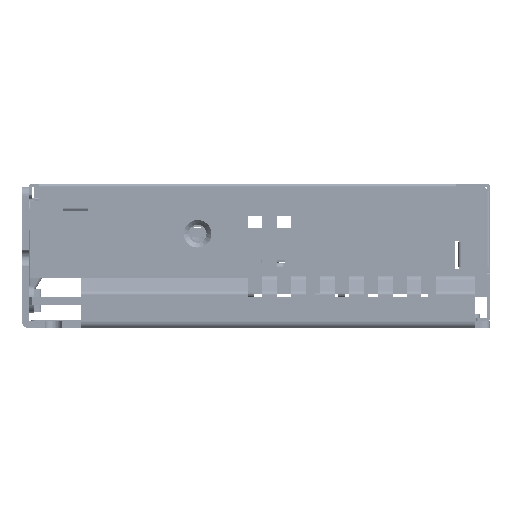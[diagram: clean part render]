
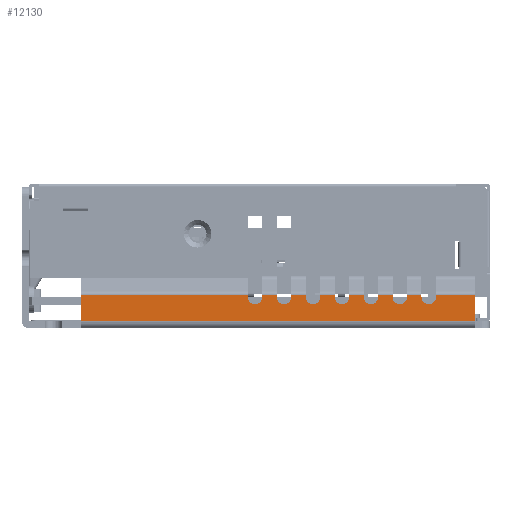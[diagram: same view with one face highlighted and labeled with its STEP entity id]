
A CAD part, left-side view. The second image highlights one B-rep face of the part: STEP entity #12130.
In plain terms, the highlighted planar face has unit normal (-1, 0, 0).
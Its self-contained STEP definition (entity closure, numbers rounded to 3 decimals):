
#3568=DIRECTION('',(0.,1.,0.));
#3569=VECTOR('',#3568,34.55);
#3570=CARTESIAN_POINT('',(-79.5,1.7,6.865));
#3571=LINE('',#3570,#3569);
#3572=DIRECTION('',(0.,0.,-1.));
#3573=VECTOR('',#3572,0.365);
#3574=CARTESIAN_POINT('',(-79.5,1.7,6.865));
#3575=LINE('',#3574,#3573);
#3576=CARTESIAN_POINT('',(-79.5,0.2,6.5));
#3577=DIRECTION('',(-1.,0.,0.));
#3578=DIRECTION('',(0.,1.,0.));
#3579=AXIS2_PLACEMENT_3D('',#3576,#3577,#3578);
#3581=DIRECTION('',(0.,0.,-1.));
#3582=VECTOR('',#3581,0.365);
#3583=CARTESIAN_POINT('',(-79.5,-1.3,6.865));
#3584=LINE('',#3583,#3582);
#3585=DIRECTION('',(0.,1.,0.));
#3586=VECTOR('',#3585,3.);
#3587=CARTESIAN_POINT('',(-79.5,-4.3,6.865));
#3588=LINE('',#3587,#3586);
#3589=DIRECTION('',(0.,0.,-1.));
#3590=VECTOR('',#3589,0.365);
#3591=CARTESIAN_POINT('',(-79.5,-4.3,6.865));
#3592=LINE('',#3591,#3590);
#3593=CARTESIAN_POINT('',(-79.5,-5.8,6.5));
#3594=DIRECTION('',(-1.,0.,0.));
#3595=DIRECTION('',(0.,1.,0.));
#3596=AXIS2_PLACEMENT_3D('',#3593,#3594,#3595);
#3598=DIRECTION('',(0.,0.,-1.));
#3599=VECTOR('',#3598,0.365);
#3600=CARTESIAN_POINT('',(-79.5,-7.3,6.865));
#3601=LINE('',#3600,#3599);
#3602=DIRECTION('',(0.,1.,0.));
#3603=VECTOR('',#3602,3.);
#3604=CARTESIAN_POINT('',(-79.5,-10.3,6.865));
#3605=LINE('',#3604,#3603);
#3606=DIRECTION('',(0.,0.,-1.));
#3607=VECTOR('',#3606,0.365);
#3608=CARTESIAN_POINT('',(-79.5,-10.3,6.865));
#3609=LINE('',#3608,#3607);
#3610=CARTESIAN_POINT('',(-79.5,-11.8,6.5));
#3611=DIRECTION('',(-1.,0.,0.));
#3612=DIRECTION('',(0.,1.,0.));
#3613=AXIS2_PLACEMENT_3D('',#3610,#3611,#3612);
#3615=DIRECTION('',(0.,0.,-1.));
#3616=VECTOR('',#3615,0.365);
#3617=CARTESIAN_POINT('',(-79.5,-13.3,6.865));
#3618=LINE('',#3617,#3616);
#3619=DIRECTION('',(0.,1.,0.));
#3620=VECTOR('',#3619,3.);
#3621=CARTESIAN_POINT('',(-79.5,-16.3,6.865));
#3622=LINE('',#3621,#3620);
#3623=DIRECTION('',(0.,0.,-1.));
#3624=VECTOR('',#3623,0.365);
#3625=CARTESIAN_POINT('',(-79.5,-16.3,6.865));
#3626=LINE('',#3625,#3624);
#3627=CARTESIAN_POINT('',(-79.5,-17.8,6.5));
#3628=DIRECTION('',(-1.,0.,0.));
#3629=DIRECTION('',(0.,1.,0.));
#3630=AXIS2_PLACEMENT_3D('',#3627,#3628,#3629);
#3632=DIRECTION('',(0.,0.,-1.));
#3633=VECTOR('',#3632,0.365);
#3634=CARTESIAN_POINT('',(-79.5,-19.3,6.865));
#3635=LINE('',#3634,#3633);
#3636=DIRECTION('',(0.,1.,0.));
#3637=VECTOR('',#3636,3.);
#3638=CARTESIAN_POINT('',(-79.5,-22.3,6.865));
#3639=LINE('',#3638,#3637);
#3640=DIRECTION('',(0.,0.,-1.));
#3641=VECTOR('',#3640,0.365);
#3642=CARTESIAN_POINT('',(-79.5,-22.3,6.865));
#3643=LINE('',#3642,#3641);
#3644=CARTESIAN_POINT('',(-79.5,-23.8,6.5));
#3645=DIRECTION('',(-1.,0.,0.));
#3646=DIRECTION('',(0.,1.,0.));
#3647=AXIS2_PLACEMENT_3D('',#3644,#3645,#3646);
#3649=DIRECTION('',(0.,0.,-1.));
#3650=VECTOR('',#3649,0.365);
#3651=CARTESIAN_POINT('',(-79.5,-25.3,6.865));
#3652=LINE('',#3651,#3650);
#3653=DIRECTION('',(0.,1.,0.));
#3654=VECTOR('',#3653,3.);
#3655=CARTESIAN_POINT('',(-79.5,-28.3,6.865));
#3656=LINE('',#3655,#3654);
#3657=DIRECTION('',(0.,0.,-1.));
#3658=VECTOR('',#3657,0.365);
#3659=CARTESIAN_POINT('',(-79.5,-28.3,6.865));
#3660=LINE('',#3659,#3658);
#3661=CARTESIAN_POINT('',(-79.5,-29.8,6.5));
#3662=DIRECTION('',(-1.,0.,0.));
#3663=DIRECTION('',(0.,1.,0.));
#3664=AXIS2_PLACEMENT_3D('',#3661,#3662,#3663);
#3666=DIRECTION('',(0.,0.,-1.));
#3667=VECTOR('',#3666,0.365);
#3668=CARTESIAN_POINT('',(-79.5,-31.3,6.865));
#3669=LINE('',#3668,#3667);
#3670=DIRECTION('',(0.,1.,0.));
#3671=VECTOR('',#3670,3.);
#3672=CARTESIAN_POINT('',(-79.5,-34.3,6.865));
#3673=LINE('',#3672,#3671);
#3674=DIRECTION('',(0.,0.,-1.));
#3675=VECTOR('',#3674,0.365);
#3676=CARTESIAN_POINT('',(-79.5,-34.3,6.865));
#3677=LINE('',#3676,#3675);
#3678=CARTESIAN_POINT('',(-79.5,-35.8,6.5));
#3679=DIRECTION('',(-1.,0.,0.));
#3680=DIRECTION('',(0.,1.,0.));
#3681=AXIS2_PLACEMENT_3D('',#3678,#3679,#3680);
#3683=DIRECTION('',(0.,0.,-1.));
#3684=VECTOR('',#3683,0.365);
#3685=CARTESIAN_POINT('',(-79.5,-37.3,6.865));
#3686=LINE('',#3685,#3684);
#3687=DIRECTION('',(0.,1.,0.));
#3688=VECTOR('',#3687,8.);
#3689=CARTESIAN_POINT('',(-79.5,-45.3,6.865));
#3690=LINE('',#3689,#3688);
#3691=DIRECTION('',(0.,0.,1.));
#3692=VECTOR('',#3691,5.365);
#3693=CARTESIAN_POINT('',(-79.5,-45.3,1.5));
#3694=LINE('',#3693,#3692);
#3695=DIRECTION('',(0.,0.,1.));
#3696=VECTOR('',#3695,5.365);
#3697=CARTESIAN_POINT('',(-79.5,36.25,1.5));
#3698=LINE('',#3697,#3696);
#4972=DIRECTION('',(0.,-1.,0.));
#4973=VECTOR('',#4972,81.55);
#4974=CARTESIAN_POINT('',(-79.5,36.25,1.5));
#4975=LINE('',#4974,#4973);
#6003=CARTESIAN_POINT('',(-79.5,-45.3,1.5));
#6005=VERTEX_POINT('',#6003);
#6007=CARTESIAN_POINT('',(-79.5,36.25,1.5));
#6008=VERTEX_POINT('',#6007);
#6819=CARTESIAN_POINT('',(-79.5,-34.3,6.5));
#6820=CARTESIAN_POINT('',(-79.5,-37.3,6.5));
#6821=VERTEX_POINT('',#6819);
#6822=VERTEX_POINT('',#6820);
#6831=CARTESIAN_POINT('',(-79.5,-28.3,6.5));
#6832=CARTESIAN_POINT('',(-79.5,-31.3,6.5));
#6833=VERTEX_POINT('',#6831);
#6834=VERTEX_POINT('',#6832);
#6843=CARTESIAN_POINT('',(-79.5,-22.3,6.5));
#6844=CARTESIAN_POINT('',(-79.5,-25.3,6.5));
#6845=VERTEX_POINT('',#6843);
#6846=VERTEX_POINT('',#6844);
#6855=CARTESIAN_POINT('',(-79.5,-16.3,6.5));
#6856=CARTESIAN_POINT('',(-79.5,-19.3,6.5));
#6857=VERTEX_POINT('',#6855);
#6858=VERTEX_POINT('',#6856);
#6867=CARTESIAN_POINT('',(-79.5,-10.3,6.5));
#6868=CARTESIAN_POINT('',(-79.5,-13.3,6.5));
#6869=VERTEX_POINT('',#6867);
#6870=VERTEX_POINT('',#6868);
#6879=CARTESIAN_POINT('',(-79.5,-4.3,6.5));
#6880=CARTESIAN_POINT('',(-79.5,-7.3,6.5));
#6881=VERTEX_POINT('',#6879);
#6882=VERTEX_POINT('',#6880);
#6983=CARTESIAN_POINT('',(-79.5,36.25,6.865));
#6985=VERTEX_POINT('',#6983);
#6991=CARTESIAN_POINT('',(-79.5,1.7,6.865));
#6992=VERTEX_POINT('',#6991);
#6993=CARTESIAN_POINT('',(-79.5,-7.3,6.865));
#6995=VERTEX_POINT('',#6993);
#7003=CARTESIAN_POINT('',(-79.5,-10.3,6.865));
#7004=VERTEX_POINT('',#7003);
#7005=CARTESIAN_POINT('',(-79.5,-13.3,6.865));
#7007=VERTEX_POINT('',#7005);
#7015=CARTESIAN_POINT('',(-79.5,-16.3,6.865));
#7016=VERTEX_POINT('',#7015);
#7017=CARTESIAN_POINT('',(-79.5,-19.3,6.865));
#7019=VERTEX_POINT('',#7017);
#7027=CARTESIAN_POINT('',(-79.5,-22.3,6.865));
#7028=VERTEX_POINT('',#7027);
#7029=CARTESIAN_POINT('',(-79.5,-25.3,6.865));
#7031=VERTEX_POINT('',#7029);
#7039=CARTESIAN_POINT('',(-79.5,-28.3,6.865));
#7040=VERTEX_POINT('',#7039);
#7041=CARTESIAN_POINT('',(-79.5,-31.3,6.865));
#7043=VERTEX_POINT('',#7041);
#7051=CARTESIAN_POINT('',(-79.5,-34.3,6.865));
#7052=VERTEX_POINT('',#7051);
#7053=CARTESIAN_POINT('',(-79.5,-37.3,6.865));
#7055=VERTEX_POINT('',#7053);
#7063=CARTESIAN_POINT('',(-79.5,-45.3,6.865));
#7064=VERTEX_POINT('',#7063);
#7065=CARTESIAN_POINT('',(-79.5,-4.3,6.865));
#7066=VERTEX_POINT('',#7065);
#7083=CARTESIAN_POINT('',(-79.5,1.7,6.5));
#7084=CARTESIAN_POINT('',(-79.5,-1.3,6.5));
#7085=VERTEX_POINT('',#7083);
#7086=VERTEX_POINT('',#7084);
#7121=CARTESIAN_POINT('',(-79.5,-1.3,6.865));
#7123=VERTEX_POINT('',#7121);
#12063=CARTESIAN_POINT('',(-79.5,16.874,0.));
#12064=DIRECTION('',(-1.,0.,0.));
#12065=DIRECTION('',(0.,-1.,0.));
#12066=AXIS2_PLACEMENT_3D('',#12063,#12064,#12065);
#12067=PLANE('',#12066);
#12068=ORIENTED_EDGE('',*,*,#11293,.F.);
#12070=ORIENTED_EDGE('',*,*,#12069,.T.);
#12072=ORIENTED_EDGE('',*,*,#12071,.T.);
#12074=ORIENTED_EDGE('',*,*,#12073,.F.);
#12076=ORIENTED_EDGE('',*,*,#12075,.F.);
#12078=ORIENTED_EDGE('',*,*,#12077,.T.);
#12080=ORIENTED_EDGE('',*,*,#12079,.T.);
#12081=ORIENTED_EDGE('',*,*,#12052,.F.);
#12082=ORIENTED_EDGE('',*,*,#12041,.F.);
#12084=ORIENTED_EDGE('',*,*,#12083,.T.);
#12086=ORIENTED_EDGE('',*,*,#12085,.T.);
#12088=ORIENTED_EDGE('',*,*,#12087,.F.);
#12090=ORIENTED_EDGE('',*,*,#12089,.F.);
#12092=ORIENTED_EDGE('',*,*,#12091,.T.);
#12094=ORIENTED_EDGE('',*,*,#12093,.T.);
#12096=ORIENTED_EDGE('',*,*,#12095,.F.);
#12098=ORIENTED_EDGE('',*,*,#12097,.F.);
#12100=ORIENTED_EDGE('',*,*,#12099,.T.);
#12102=ORIENTED_EDGE('',*,*,#12101,.T.);
#12104=ORIENTED_EDGE('',*,*,#12103,.F.);
#12106=ORIENTED_EDGE('',*,*,#12105,.F.);
#12108=ORIENTED_EDGE('',*,*,#12107,.T.);
#12110=ORIENTED_EDGE('',*,*,#12109,.T.);
#12112=ORIENTED_EDGE('',*,*,#12111,.F.);
#12114=ORIENTED_EDGE('',*,*,#12113,.F.);
#12116=ORIENTED_EDGE('',*,*,#12115,.T.);
#12118=ORIENTED_EDGE('',*,*,#12117,.T.);
#12120=ORIENTED_EDGE('',*,*,#12119,.F.);
#12122=ORIENTED_EDGE('',*,*,#12121,.F.);
#12124=ORIENTED_EDGE('',*,*,#12123,.F.);
#12126=ORIENTED_EDGE('',*,*,#12125,.F.);
#12127=ORIENTED_EDGE('',*,*,#11269,.T.);
#12128=EDGE_LOOP('',(#12068,#12070,#12072,#12074,#12076,#12078,#12080,#12081,
#12082,#12084,#12086,#12088,#12090,#12092,#12094,#12096,#12098,#12100,#12102,
#12104,#12106,#12108,#12110,#12112,#12114,#12116,#12118,#12120,#12122,#12124,
#12126,#12127));
#12129=FACE_OUTER_BOUND('',#12128,.F.);
#3580=CIRCLE('',#3579,1.5);
#3597=CIRCLE('',#3596,1.5);
#3614=CIRCLE('',#3613,1.5);
#3631=CIRCLE('',#3630,1.5);
#3648=CIRCLE('',#3647,1.5);
#3665=CIRCLE('',#3664,1.5);
#3682=CIRCLE('',#3681,1.5);
#11269=EDGE_CURVE('',#6008,#6985,#3698,.T.);
#11293=EDGE_CURVE('',#6992,#6985,#3571,.T.);
#12041=EDGE_CURVE('',#7004,#6995,#3605,.T.);
#12052=EDGE_CURVE('',#6995,#6882,#3601,.T.);
#12069=EDGE_CURVE('',#6992,#7085,#3575,.T.);
#12071=EDGE_CURVE('',#7085,#7086,#3580,.T.);
#12073=EDGE_CURVE('',#7123,#7086,#3584,.T.);
#12075=EDGE_CURVE('',#7066,#7123,#3588,.T.);
#12077=EDGE_CURVE('',#7066,#6881,#3592,.T.);
#12079=EDGE_CURVE('',#6881,#6882,#3597,.T.);
#12083=EDGE_CURVE('',#7004,#6869,#3609,.T.);
#12085=EDGE_CURVE('',#6869,#6870,#3614,.T.);
#12087=EDGE_CURVE('',#7007,#6870,#3618,.T.);
#12089=EDGE_CURVE('',#7016,#7007,#3622,.T.);
#12091=EDGE_CURVE('',#7016,#6857,#3626,.T.);
#12093=EDGE_CURVE('',#6857,#6858,#3631,.T.);
#12095=EDGE_CURVE('',#7019,#6858,#3635,.T.);
#12097=EDGE_CURVE('',#7028,#7019,#3639,.T.);
#12099=EDGE_CURVE('',#7028,#6845,#3643,.T.);
#12101=EDGE_CURVE('',#6845,#6846,#3648,.T.);
#12103=EDGE_CURVE('',#7031,#6846,#3652,.T.);
#12105=EDGE_CURVE('',#7040,#7031,#3656,.T.);
#12107=EDGE_CURVE('',#7040,#6833,#3660,.T.);
#12109=EDGE_CURVE('',#6833,#6834,#3665,.T.);
#12111=EDGE_CURVE('',#7043,#6834,#3669,.T.);
#12113=EDGE_CURVE('',#7052,#7043,#3673,.T.);
#12115=EDGE_CURVE('',#7052,#6821,#3677,.T.);
#12117=EDGE_CURVE('',#6821,#6822,#3682,.T.);
#12119=EDGE_CURVE('',#7055,#6822,#3686,.T.);
#12121=EDGE_CURVE('',#7064,#7055,#3690,.T.);
#12123=EDGE_CURVE('',#6005,#7064,#3694,.T.);
#12125=EDGE_CURVE('',#6008,#6005,#4975,.T.);
#12130=ADVANCED_FACE('',(#12129),#12067,.T.);
